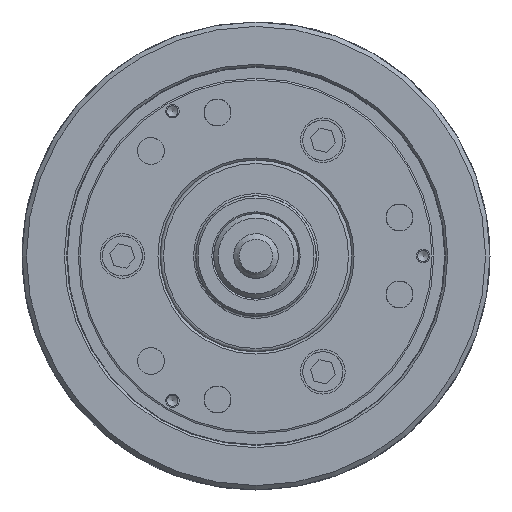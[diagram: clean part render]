
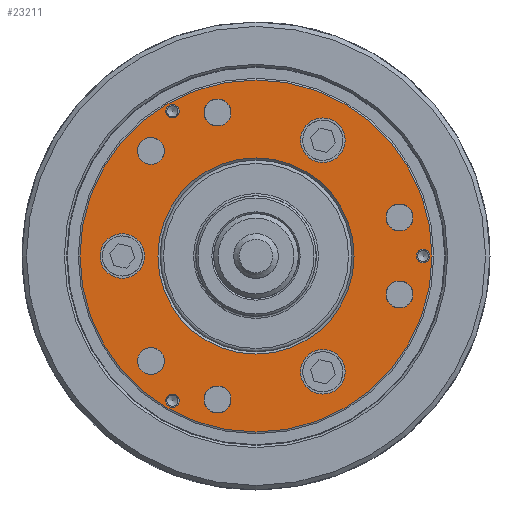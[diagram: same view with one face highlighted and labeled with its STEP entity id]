
A CAD part, left-side view. The second image highlights one B-rep face of the part: STEP entity #23211.
In plain terms, the highlighted planar face has unit normal (-1, 0, 0).
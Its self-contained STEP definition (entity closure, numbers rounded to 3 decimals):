
#137 = CARTESIAN_POINT ( 'NONE',  ( -80., -75., 0. ) ) ;
#865 = AXIS2_PLACEMENT_3D ( 'NONE', #24960, #20627, #16261 ) ;
#1016 = ORIENTED_EDGE ( 'NONE', *, *, #30276, .T. ) ;
#1346 = CIRCLE ( 'NONE', #17690, 3. ) ;
#1755 = ORIENTED_EDGE ( 'NONE', *, *, #29985, .T. ) ;
#1781 = FACE_BOUND ( 'NONE', #40617, .T. ) ;
#2095 = CARTESIAN_POINT ( 'NONE',  ( -80., -30., 51.962 ) ) ;
#2111 = CARTESIAN_POINT ( 'NONE',  ( -80., 0., 0. ) ) ;
#2124 = CARTESIAN_POINT ( 'NONE',  ( -80., 17.257, 58.403 ) ) ;
#2534 = CARTESIAN_POINT ( 'NONE',  ( -80., -64.403, -23.257 ) ) ;
#3305 = FACE_OUTER_BOUND ( 'NONE', #56312, .T. ) ;
#3660 = CARTESIAN_POINT ( 'NONE',  ( -80., 60., 0. ) ) ;
#3948 = FACE_BOUND ( 'NONE', #35146, .T. ) ;
#4831 = EDGE_CURVE ( 'NONE', #19754, #19754, #40788, .T. ) ;
#5429 = FACE_BOUND ( 'NONE', #43722, .T. ) ;
#5550 = CARTESIAN_POINT ( 'NONE',  ( -80., 47.146, 47.146 ) ) ;
#6025 = CARTESIAN_POINT ( 'NONE',  ( -80., -64.403, -17.257 ) ) ;
#6191 = AXIS2_PLACEMENT_3D ( 'NONE', #32809, #9168, #13936 ) ;
#6268 = ORIENTED_EDGE ( 'NONE', *, *, #20411, .F. ) ;
#6388 = DIRECTION ( 'NONE',  ( 0., 0., -1. ) ) ;
#6835 = ORIENTED_EDGE ( 'NONE', *, *, #49590, .T. ) ;
#6931 = FACE_BOUND ( 'NONE', #39812, .T. ) ;
#6935 = DIRECTION ( 'NONE',  ( 0., 0.866, -0.5 ) ) ;
#7457 = ORIENTED_EDGE ( 'NONE', *, *, #29557, .F. ) ;
#7752 = CARTESIAN_POINT ( 'NONE',  ( -80., -64.403, 11.257 ) ) ;
#8265 = CIRCLE ( 'NONE', #22872, 6. ) ;
#8456 = VERTEX_POINT ( 'NONE', #31630 ) ;
#9168 = DIRECTION ( 'NONE',  ( -1., 0., 0. ) ) ;
#9261 = VERTEX_POINT ( 'NONE', #60529 ) ;
#9726 = DIRECTION ( 'NONE',  ( 0., 0., 1. ) ) ;
#9782 = EDGE_CURVE ( 'NONE', #24136, #24136, #30495, .T. ) ;
#10253 = EDGE_CURVE ( 'NONE', #13715, #13715, #23088, .T. ) ;
#11470 = FACE_BOUND ( 'NONE', #12704, .T. ) ;
#12517 = EDGE_CURVE ( 'NONE', #33000, #33000, #18681, .T. ) ;
#12704 = EDGE_LOOP ( 'NONE', ( #18097 ) ) ;
#13715 = VERTEX_POINT ( 'NONE', #16298 ) ;
#13936 = DIRECTION ( 'NONE',  ( 0., 0., 1. ) ) ;
#14953 = CIRCLE ( 'NONE', #24819, 6. ) ;
#15021 = CARTESIAN_POINT ( 'NONE',  ( -80., 37.5, -64.952 ) ) ;
#15105 = FACE_BOUND ( 'NONE', #46483, .T. ) ;
#15341 = CARTESIAN_POINT ( 'NONE',  ( -80., 79., 0. ) ) ;
#16261 = DIRECTION ( 'NONE',  ( 0., 0., 1. ) ) ;
#16298 = CARTESIAN_POINT ( 'NONE',  ( -80., -21.34, -56.962 ) ) ;
#16480 = CIRCLE ( 'NONE', #36190, 44. ) ;
#17239 = DIRECTION ( 'NONE',  ( 1., 0., 0. ) ) ;
#17690 = AXIS2_PLACEMENT_3D ( 'NONE', #15021, #48014, #52987 ) ;
#17896 = DIRECTION ( 'NONE',  ( 0., 0., -1. ) ) ;
#18097 = ORIENTED_EDGE ( 'NONE', *, *, #12517, .T. ) ;
#18681 = CIRCLE ( 'NONE', #56218, 6. ) ;
#18756 = CARTESIAN_POINT ( 'NONE',  ( -80., -38.66, 46.962 ) ) ;
#19754 = VERTEX_POINT ( 'NONE', #2534 ) ;
#20411 = EDGE_CURVE ( 'NONE', #58303, #58303, #1346, .T. ) ;
#20501 = EDGE_CURVE ( 'NONE', #9261, #9261, #48138, .T. ) ;
#20627 = DIRECTION ( 'NONE',  ( -1., 0., 0. ) ) ;
#21261 = DIRECTION ( 'NONE',  ( -1., 0., 0. ) ) ;
#21504 = EDGE_LOOP ( 'NONE', ( #38140 ) ) ;
#22636 = FACE_BOUND ( 'NONE', #23171, .T. ) ;
#22872 = AXIS2_PLACEMENT_3D ( 'NONE', #5550, #43944, #42517 ) ;
#23088 = CIRCLE ( 'NONE', #54942, 10. ) ;
#23171 = EDGE_LOOP ( 'NONE', ( #1755 ) ) ;
#23211 = ADVANCED_FACE ( 'NONE', ( #11470, #3948, #52969, #22636, #46376, #33745, #32190, #1781, #27720, #5429, #6931, #15105, #56001, #3305 ), #34819, .F. ) ;
#23735 = ORIENTED_EDGE ( 'NONE', *, *, #20501, .F. ) ;
#24136 = VERTEX_POINT ( 'NONE', #31000 ) ;
#24819 = AXIS2_PLACEMENT_3D ( 'NONE', #45643, #17239, #55854 ) ;
#24960 = CARTESIAN_POINT ( 'NONE',  ( -80., 37.5, 64.952 ) ) ;
#25941 = CARTESIAN_POINT ( 'NONE',  ( -80., 17.257, -64.403 ) ) ;
#26269 = VERTEX_POINT ( 'NONE', #60122 ) ;
#27720 = FACE_BOUND ( 'NONE', #36001, .T. ) ;
#28647 = ORIENTED_EDGE ( 'NONE', *, *, #36353, .F. ) ;
#29557 = EDGE_CURVE ( 'NONE', #61300, #61300, #38130, .T. ) ;
#29936 = ORIENTED_EDGE ( 'NONE', *, *, #32878, .T. ) ;
#29985 = EDGE_CURVE ( 'NONE', #48595, #48595, #14953, .T. ) ;
#30036 = DIRECTION ( 'NONE',  ( 1., 0., 0. ) ) ;
#30276 = EDGE_CURVE ( 'NONE', #54538, #54538, #8265, .T. ) ;
#30495 = CIRCLE ( 'NONE', #46541, 10. ) ;
#30703 = DIRECTION ( 'NONE',  ( 0., 0., -1. ) ) ;
#30988 = DIRECTION ( 'NONE',  ( 0., 0., 1. ) ) ;
#31000 = CARTESIAN_POINT ( 'NONE',  ( -80., 60., 10. ) ) ;
#31630 = CARTESIAN_POINT ( 'NONE',  ( -80., 0., 44. ) ) ;
#31679 = AXIS2_PLACEMENT_3D ( 'NONE', #2095, #53832, #44871 ) ;
#32190 = FACE_BOUND ( 'NONE', #41916, .T. ) ;
#32229 = CARTESIAN_POINT ( 'NONE',  ( -80., 47.146, -53.146 ) ) ;
#32809 = CARTESIAN_POINT ( 'NONE',  ( -80., 0., 0. ) ) ;
#32878 = EDGE_CURVE ( 'NONE', #49295, #49295, #44364, .T. ) ;
#32965 = ORIENTED_EDGE ( 'NONE', *, *, #4831, .T. ) ;
#33000 = VERTEX_POINT ( 'NONE', #2124 ) ;
#33250 = EDGE_LOOP ( 'NONE', ( #28647 ) ) ;
#33373 = DIRECTION ( 'NONE',  ( -1., 0., 0. ) ) ;
#33745 = FACE_BOUND ( 'NONE', #43410, .T. ) ;
#34819 = PLANE ( 'NONE',  #41670 ) ;
#35146 = EDGE_LOOP ( 'NONE', ( #1016 ) ) ;
#35189 = EDGE_CURVE ( 'NONE', #26269, #26269, #55205, .T. ) ;
#36001 = EDGE_LOOP ( 'NONE', ( #23735 ) ) ;
#36190 = AXIS2_PLACEMENT_3D ( 'NONE', #2111, #21261, #30988 ) ;
#36353 = EDGE_CURVE ( 'NONE', #8456, #8456, #16480, .T. ) ;
#36793 = CARTESIAN_POINT ( 'NONE',  ( -80., -75., 3. ) ) ;
#36869 = DIRECTION ( 'NONE',  ( -1., 0., 0. ) ) ;
#38130 = CIRCLE ( 'NONE', #56273, 3. ) ;
#38140 = ORIENTED_EDGE ( 'NONE', *, *, #35189, .T. ) ;
#38749 = CARTESIAN_POINT ( 'NONE',  ( -80., 17.257, 64.403 ) ) ;
#39812 = EDGE_LOOP ( 'NONE', ( #42156 ) ) ;
#40372 = VERTEX_POINT ( 'NONE', #61556 ) ;
#40617 = EDGE_LOOP ( 'NONE', ( #43017 ) ) ;
#40760 = DIRECTION ( 'NONE',  ( -1., 0., 0. ) ) ;
#40788 = CIRCLE ( 'NONE', #57479, 6. ) ;
#41198 = AXIS2_PLACEMENT_3D ( 'NONE', #50421, #46093, #17896 ) ;
#41642 = DIRECTION ( 'NONE',  ( 0., 0., 1. ) ) ;
#41670 = AXIS2_PLACEMENT_3D ( 'NONE', #15341, #30036, #6388 ) ;
#41916 = EDGE_LOOP ( 'NONE', ( #53322 ) ) ;
#42156 = ORIENTED_EDGE ( 'NONE', *, *, #9782, .F. ) ;
#42517 = DIRECTION ( 'NONE',  ( 0., 0., -1. ) ) ;
#43017 = ORIENTED_EDGE ( 'NONE', *, *, #50455, .F. ) ;
#43410 = EDGE_LOOP ( 'NONE', ( #32965 ) ) ;
#43529 = DIRECTION ( 'NONE',  ( 1., 0., 0. ) ) ;
#43719 = CIRCLE ( 'NONE', #31679, 10. ) ;
#43722 = EDGE_LOOP ( 'NONE', ( #7457 ) ) ;
#43944 = DIRECTION ( 'NONE',  ( 1., 0., 0. ) ) ;
#44364 = CIRCLE ( 'NONE', #41198, 6. ) ;
#44871 = DIRECTION ( 'NONE',  ( 0., -0.866, -0.5 ) ) ;
#45323 = CARTESIAN_POINT ( 'NONE',  ( -80., -30., -51.962 ) ) ;
#45643 = CARTESIAN_POINT ( 'NONE',  ( -80., -64.403, 17.257 ) ) ;
#46093 = DIRECTION ( 'NONE',  ( 1., 0., 0. ) ) ;
#46376 = FACE_BOUND ( 'NONE', #59466, .T. ) ;
#46483 = EDGE_LOOP ( 'NONE', ( #6268 ) ) ;
#46541 = AXIS2_PLACEMENT_3D ( 'NONE', #3660, #36869, #41642 ) ;
#48014 = DIRECTION ( 'NONE',  ( -1., 0., 0. ) ) ;
#48138 = CIRCLE ( 'NONE', #865, 3. ) ;
#48595 = VERTEX_POINT ( 'NONE', #7752 ) ;
#49295 = VERTEX_POINT ( 'NONE', #32229 ) ;
#49590 = EDGE_CURVE ( 'NONE', #40372, #40372, #53503, .T. ) ;
#50421 = CARTESIAN_POINT ( 'NONE',  ( -80., 47.146, -47.146 ) ) ;
#50455 = EDGE_CURVE ( 'NONE', #53803, #53803, #43719, .T. ) ;
#50680 = CARTESIAN_POINT ( 'NONE',  ( -80., 47.146, 41.146 ) ) ;
#52457 = AXIS2_PLACEMENT_3D ( 'NONE', #25941, #59185, #30703 ) ;
#52733 = DIRECTION ( 'NONE',  ( 1., 0., 0. ) ) ;
#52941 = DIRECTION ( 'NONE',  ( 0., 0., -1. ) ) ;
#52969 = FACE_BOUND ( 'NONE', #21504, .T. ) ;
#52987 = DIRECTION ( 'NONE',  ( 0., 0., 1. ) ) ;
#53322 = ORIENTED_EDGE ( 'NONE', *, *, #10253, .F. ) ;
#53503 = CIRCLE ( 'NONE', #6191, 79. ) ;
#53803 = VERTEX_POINT ( 'NONE', #18756 ) ;
#53832 = DIRECTION ( 'NONE',  ( -1., 0., 0. ) ) ;
#54538 = VERTEX_POINT ( 'NONE', #50680 ) ;
#54942 = AXIS2_PLACEMENT_3D ( 'NONE', #45323, #40760, #6935 ) ;
#55205 = CIRCLE ( 'NONE', #52457, 6. ) ;
#55325 = CARTESIAN_POINT ( 'NONE',  ( -80., 37.5, -61.952 ) ) ;
#55854 = DIRECTION ( 'NONE',  ( 0., 0., -1. ) ) ;
#56001 = FACE_BOUND ( 'NONE', #33250, .T. ) ;
#56218 = AXIS2_PLACEMENT_3D ( 'NONE', #38749, #43529, #58117 ) ;
#56273 = AXIS2_PLACEMENT_3D ( 'NONE', #137, #33373, #9726 ) ;
#56312 = EDGE_LOOP ( 'NONE', ( #6835 ) ) ;
#57479 = AXIS2_PLACEMENT_3D ( 'NONE', #6025, #52733, #52941 ) ;
#58117 = DIRECTION ( 'NONE',  ( 0., 0., -1. ) ) ;
#58303 = VERTEX_POINT ( 'NONE', #55325 ) ;
#59185 = DIRECTION ( 'NONE',  ( 1., 0., 0. ) ) ;
#59466 = EDGE_LOOP ( 'NONE', ( #29936 ) ) ;
#60122 = CARTESIAN_POINT ( 'NONE',  ( -80., 17.257, -70.403 ) ) ;
#60529 = CARTESIAN_POINT ( 'NONE',  ( -80., 37.5, 67.952 ) ) ;
#61300 = VERTEX_POINT ( 'NONE', #36793 ) ;
#61556 = CARTESIAN_POINT ( 'NONE',  ( -80., 0., 79. ) ) ;
